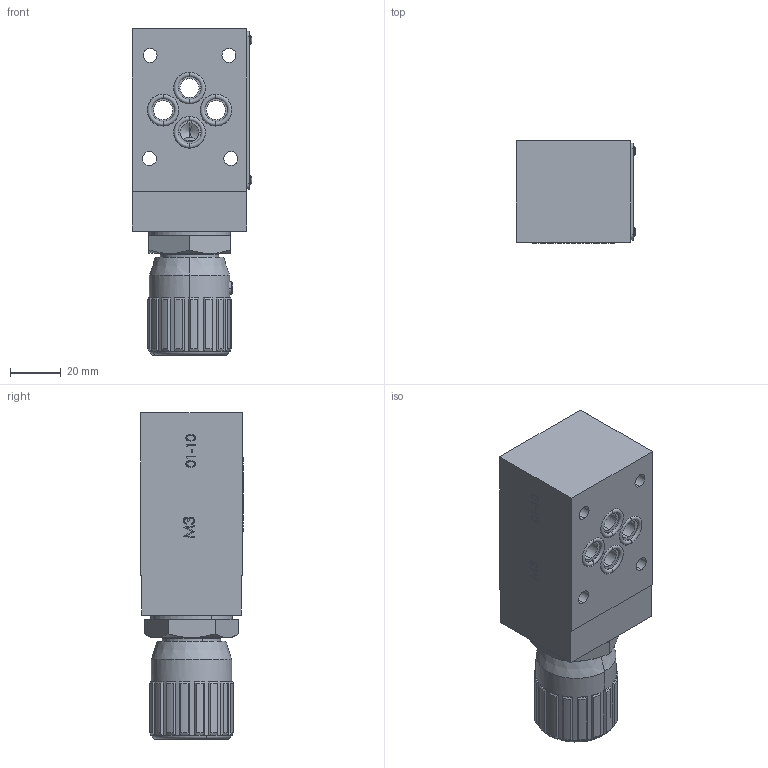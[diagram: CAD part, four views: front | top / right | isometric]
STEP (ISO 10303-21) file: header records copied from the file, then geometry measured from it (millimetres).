
FILE_DESCRIPTION (( 'STEP AP214' ), '1' );
FILE_NAME ('FT357-5-B-03-H.STEP', '2014-06-17T05:21:28', ( '' ), ( '' ), 'SwSTEP 2.0', 'SolidWorks 2014', '' );
FILE_SCHEMA (( 'AUTOMOTIVE_DESIGN' ));
Length unit declared in the file: millimetre
Products named in the file (21): AnelloFermoFT1251_2-01-12; 257-6-009000-38; 267-5-002001-38; 267-5-008001-38; 267-5-017000-38; 267-5-018000-38; OR2018; BK2018; ViteM3_Semplice; 357-5-AB101000; RivettoTarga; 357-5-B015000-H; 357-5-B001000-H; VolantinoFT257-5_38_Tipo38; GranoFT257_5-38; FT357-5-B-03-H; DiscoFascetta257_5-38; CappuccioFT257-5_38_Tipo38; OR2037; OR2068; OR132
Assembly tree (26 placements, depth 2):
  FT357-5-B-03-H
    357-5-B001000-H
    357-5-B015000-H
    RivettoTarga  x4
    357-5-AB101000
    ViteM3_Semplice
    BK2018
    OR2018
    267-5-018000-38
    267-5-017000-38
    267-5-008001-38
    267-5-002001-38
    257-6-009000-38
    AnelloFermoFT1251_2-01-12
    OR132
    OR2068
    OR2037  x4
    CappuccioFT257-5_38_Tipo38
    DiscoFascetta257_5-38
    GranoFT257_5-38
    VolantinoFT257-5_38_Tipo38
Bounding box: 46.96 x 40.38 x 128.3 mm (x, y, z)
Volume: 161385.5 mm3; surface area: 60955.2 mm2
Topology: 26 solids, 26 shells, 2191 faces, 5582 edges, 3630 vertices
Faces by surface type: plane 1243, bspline 385, cylinder 312, cone 191, torus 58, sphere 2
Entity records: 104600 total; most frequent: CARTESIAN_POINT 38720, ORIENTED_EDGE 10940, DIRECTION 8881, EDGE_CURVE 5470, VECTOR 3675, LINE 3675, VERTEX_POINT 3576, AXIS2_PLACEMENT_3D 2603
